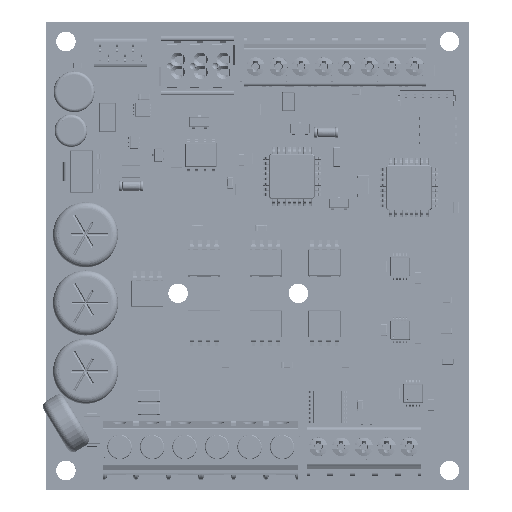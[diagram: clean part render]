
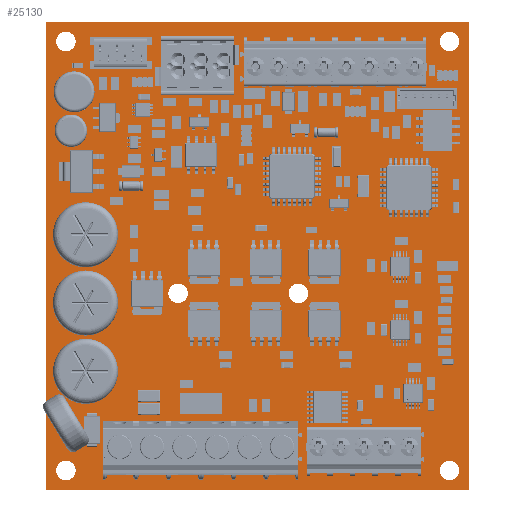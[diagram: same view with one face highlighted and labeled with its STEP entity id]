
A CAD part, top view. The second image highlights one B-rep face of the part: STEP entity #25130.
In plain terms, the highlighted planar face has unit normal (0, 0, 1).
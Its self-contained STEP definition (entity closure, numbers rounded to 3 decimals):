
#25130=ADVANCED_FACE('',(#51220,#51221,#51222,#51223,#51224,#51225,#51226),#51227,.T.);
#51220=FACE_BOUND('',#85301,.T.);
#51221=FACE_BOUND('',#85302,.T.);
#51222=FACE_BOUND('',#85303,.T.);
#51223=FACE_BOUND('',#85304,.T.);
#51224=FACE_BOUND('',#85305,.T.);
#51225=FACE_BOUND('',#85306,.T.);
#51226=FACE_OUTER_BOUND('',#85307,.T.);
#51227=PLANE('',#85308);
#85301=EDGE_LOOP('',(#150985));
#85302=EDGE_LOOP('',(#150986));
#85303=EDGE_LOOP('',(#150987));
#85304=EDGE_LOOP('',(#150988));
#85305=EDGE_LOOP('',(#150989));
#85306=EDGE_LOOP('',(#150990));
#85307=EDGE_LOOP('',(#150991,#150992,#150993,#150994));
#85308=AXIS2_PLACEMENT_3D('',#150995,#150996,#150997);
#150985=ORIENTED_EDGE('',*,*,#200377,.T.);
#150986=ORIENTED_EDGE('',*,*,#200380,.T.);
#150987=ORIENTED_EDGE('',*,*,#200383,.T.);
#150988=ORIENTED_EDGE('',*,*,#200386,.T.);
#150989=ORIENTED_EDGE('',*,*,#200389,.T.);
#150990=ORIENTED_EDGE('',*,*,#200392,.T.);
#150991=ORIENTED_EDGE('',*,*,#200395,.T.);
#150992=ORIENTED_EDGE('',*,*,#200396,.T.);
#150993=ORIENTED_EDGE('',*,*,#200397,.T.);
#150994=ORIENTED_EDGE('',*,*,#200398,.T.);
#150995=CARTESIAN_POINT('',(32.5,36.0,1.6));
#150996=DIRECTION('',(0.0,0.0,1.0));
#150997=DIRECTION('',(1.0,0.0,0.0));
#200377=EDGE_CURVE('',#241886,#241886,#241887,.T.);
#200380=EDGE_CURVE('',#241891,#241891,#241892,.T.);
#200383=EDGE_CURVE('',#241896,#241896,#241897,.T.);
#200386=EDGE_CURVE('',#241901,#241901,#241902,.T.);
#200389=EDGE_CURVE('',#241906,#241906,#241907,.T.);
#200392=EDGE_CURVE('',#241911,#241911,#241912,.T.);
#200395=EDGE_CURVE('',#241916,#241917,#241918,.T.);
#200396=EDGE_CURVE('',#241917,#241919,#241920,.T.);
#200397=EDGE_CURVE('',#241919,#241921,#241922,.T.);
#200398=EDGE_CURVE('',#241921,#241916,#241923,.T.);
#241886=VERTEX_POINT('',#307094);
#241887=CIRCLE('',#307095,1.5);
#241891=VERTEX_POINT('',#307099);
#241892=CIRCLE('',#307100,1.5);
#241896=VERTEX_POINT('',#307104);
#241897=CIRCLE('',#307105,1.5);
#241901=VERTEX_POINT('',#307109);
#241902=CIRCLE('',#307110,1.5);
#241906=VERTEX_POINT('',#307114);
#241907=CIRCLE('',#307115,1.5);
#241911=VERTEX_POINT('',#307119);
#241912=CIRCLE('',#307120,1.5);
#241916=VERTEX_POINT('',#307124);
#241917=VERTEX_POINT('',#307125);
#241918=LINE('',#307126,#307127);
#241919=VERTEX_POINT('',#307128);
#241920=LINE('',#307129,#307130);
#241921=VERTEX_POINT('',#307131);
#241922=LINE('',#307132,#307133);
#241923=LINE('',#307134,#307135);
#307094=CARTESIAN_POINT('',(37.25,30.25,1.6));
#307095=AXIS2_PLACEMENT_3D('',#356712,#356713,#356714);
#307099=CARTESIAN_POINT('',(18.75,30.25,1.6));
#307100=AXIS2_PLACEMENT_3D('',#356718,#356719,#356720);
#307104=CARTESIAN_POINT('',(1.5,69.0,1.6));
#307105=AXIS2_PLACEMENT_3D('',#356724,#356725,#356726);
#307109=CARTESIAN_POINT('',(60.5,69.0,1.6));
#307110=AXIS2_PLACEMENT_3D('',#356730,#356731,#356732);
#307114=CARTESIAN_POINT('',(60.5,3.0,1.6));
#307115=AXIS2_PLACEMENT_3D('',#356736,#356737,#356738);
#307119=CARTESIAN_POINT('',(1.5,3.0,1.6));
#307120=AXIS2_PLACEMENT_3D('',#356742,#356743,#356744);
#307124=CARTESIAN_POINT('',(0.0,0.0,1.6));
#307125=CARTESIAN_POINT('',(65.0,0.0,1.6));
#307126=CARTESIAN_POINT('',(32.5,0.0,1.6));
#307127=VECTOR('',#356748,1.0);
#307128=CARTESIAN_POINT('',(65.0,72.0,1.6));
#307129=CARTESIAN_POINT('',(65.0,36.0,1.6));
#307130=VECTOR('',#356749,1.0);
#307131=CARTESIAN_POINT('',(0.0,72.0,1.6));
#307132=CARTESIAN_POINT('',(32.5,72.0,1.6));
#307133=VECTOR('',#356750,1.0);
#307134=CARTESIAN_POINT('',(0.0,36.0,1.6));
#307135=VECTOR('',#356751,1.0);
#356712=CARTESIAN_POINT('',(38.75,30.25,1.6));
#356713=DIRECTION('',(-0.0,0.0,-1.0));
#356714=DIRECTION('',(-1.0,0.0,0.0));
#356718=CARTESIAN_POINT('',(20.25,30.25,1.6));
#356719=DIRECTION('',(-0.0,0.0,-1.0));
#356720=DIRECTION('',(-1.0,0.0,0.0));
#356724=CARTESIAN_POINT('',(3.0,69.0,1.6));
#356725=DIRECTION('',(-0.0,0.0,-1.0));
#356726=DIRECTION('',(-1.0,0.0,0.0));
#356730=CARTESIAN_POINT('',(62.0,69.0,1.6));
#356731=DIRECTION('',(-0.0,0.0,-1.0));
#356732=DIRECTION('',(-1.0,0.0,0.0));
#356736=CARTESIAN_POINT('',(62.0,3.0,1.6));
#356737=DIRECTION('',(-0.0,0.0,-1.0));
#356738=DIRECTION('',(-1.0,0.0,0.0));
#356742=CARTESIAN_POINT('',(3.0,3.0,1.6));
#356743=DIRECTION('',(-0.0,0.0,-1.0));
#356744=DIRECTION('',(-1.0,0.0,0.0));
#356748=DIRECTION('',(1.0,0.0,0.0));
#356749=DIRECTION('',(0.0,1.0,0.0));
#356750=DIRECTION('',(-1.0,0.0,0.0));
#356751=DIRECTION('',(0.0,-1.0,0.0));
